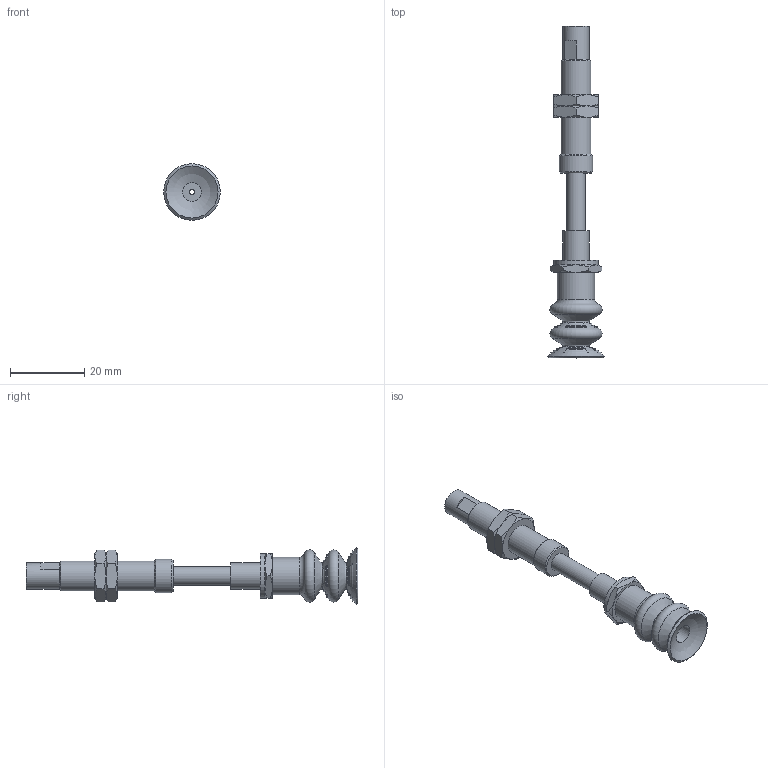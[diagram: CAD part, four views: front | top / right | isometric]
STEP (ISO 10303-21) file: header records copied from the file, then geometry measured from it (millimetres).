
FILE_DESCRIPTION(('STEP AP203'),'1');
FILE_NAME('-PE.stp','2025-04-04T02:36:37',(' '),(' '),'Spatial InterOp 3D',' ',' ');
FILE_SCHEMA(('CONFIG_CONTROL_DESIGN'));
Length unit declared in the file: millimetre
Products named in the file (8): BNABPCTS-15-15-※-PE; NUT; BODY; STOPPER; ZIG; BPCG-15-※; TN-PC-10-M5
Assembly tree (7 placements, depth 2):
  BNABPCTS-15-15-※-PE
    NUT
    NUT
    BODY
    STOPPER
    ZIG
    BPCG-15-※
    TN-PC-10-M5
Bounding box: 15.2 x 89.2 x 15.2 mm (x, y, z)
Volume: 4767.3 mm3; surface area: 6014.3 mm2
Topology: 7 solids, 7 shells, 219 faces, 657 edges, 427 vertices
Faces by surface type: sphere 58, cone 56, plane 46, torus 34, cylinder 25
Full cylindrical faces by diameter (mm): 1.25 x1, 2 x1, 3.4 x1, 3.5 x1, 4 x3, 4.2 x2, 5 x7, 5.2 x1, 7 x2, 7.25 x2, 8 x1, 9 x1, 10 x1, 12 x1
Entity records: 6485 total; most frequent: CARTESIAN_POINT 1594, DIRECTION 994, ORIENTED_EDGE 806, AXIS2_PLACEMENT_3D 484, EDGE_CURVE 403, EDGE_LOOP 324, VERTEX_POINT 289, CIRCLE 257
